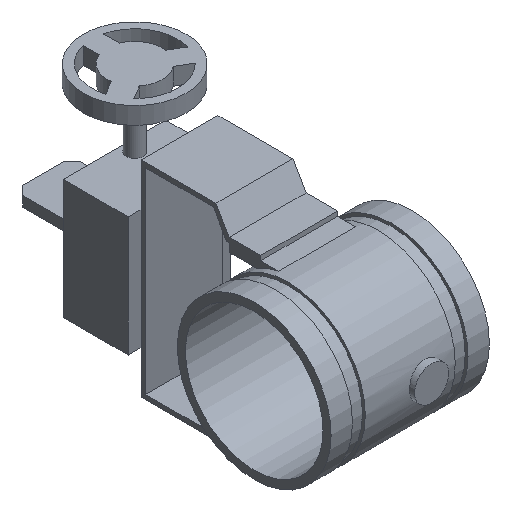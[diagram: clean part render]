
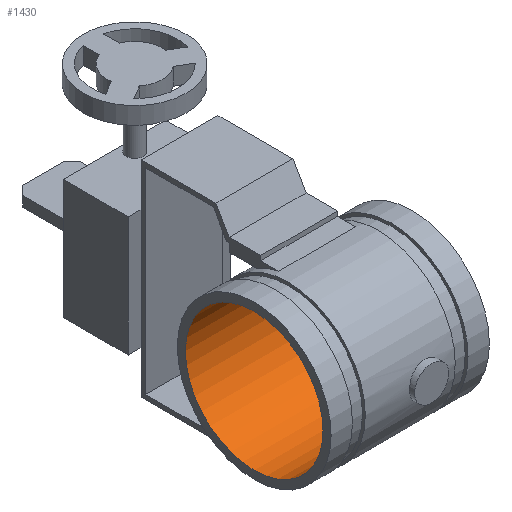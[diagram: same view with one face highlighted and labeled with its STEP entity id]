
A CAD part, isometric view. The second image highlights one B-rep face of the part: STEP entity #1430.
In plain terms, the highlighted cylindrical face has radius 51.13 mm (diameter 102.26 mm), a full revolution.
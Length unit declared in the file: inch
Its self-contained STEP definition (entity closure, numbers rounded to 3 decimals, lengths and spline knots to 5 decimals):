
#71=CYLINDRICAL_SURFACE('',#1531,2.013);
#94=CIRCLE('',#1532,2.013);
#95=CIRCLE('',#1533,2.013);
#96=CIRCLE('',#1534,2.013);
#97=CIRCLE('',#1535,2.013);
#145=FACE_OUTER_BOUND('',#219,.T.);
#219=EDGE_LOOP('',(#971,#972,#973,#974,#975,#976));
#322=LINE('',#2215,#463);
#463=VECTOR('',#1722,2.013);
#609=VERTEX_POINT('',#2211);
#610=VERTEX_POINT('',#2212);
#611=VERTEX_POINT('',#2214);
#612=VERTEX_POINT('',#2216);
#752=EDGE_CURVE('',#609,#610,#94,.T.);
#753=EDGE_CURVE('',#610,#611,#322,.T.);
#754=EDGE_CURVE('',#612,#611,#95,.T.);
#755=EDGE_CURVE('',#611,#612,#96,.T.);
#756=EDGE_CURVE('',#610,#609,#97,.T.);
#971=ORIENTED_EDGE('',*,*,#752,.T.);
#972=ORIENTED_EDGE('',*,*,#753,.T.);
#973=ORIENTED_EDGE('',*,*,#754,.F.);
#974=ORIENTED_EDGE('',*,*,#755,.F.);
#975=ORIENTED_EDGE('',*,*,#753,.F.);
#976=ORIENTED_EDGE('',*,*,#756,.T.);
#1430=ADVANCED_FACE('',(#145),#71,.F.);
#1531=AXIS2_PLACEMENT_3D('',#2210,#1718,#1719);
#1532=AXIS2_PLACEMENT_3D('',#2213,#1720,#1721);
#1533=AXIS2_PLACEMENT_3D('',#2217,#1723,#1724);
#1534=AXIS2_PLACEMENT_3D('',#2218,#1725,#1726);
#1535=AXIS2_PLACEMENT_3D('',#2219,#1727,#1728);
#1718=DIRECTION('center_axis',(1.,0.,0.));
#1719=DIRECTION('ref_axis',(0.,1.,0.));
#1720=DIRECTION('center_axis',(1.,0.,0.));
#1721=DIRECTION('ref_axis',(0.,0.,-1.));
#1722=DIRECTION('',(-1.,0.,0.));
#1723=DIRECTION('center_axis',(1.,0.,0.));
#1724=DIRECTION('ref_axis',(0.,0.,-1.));
#1725=DIRECTION('center_axis',(1.,0.,0.));
#1726=DIRECTION('ref_axis',(0.,0.,-1.));
#1727=DIRECTION('center_axis',(1.,0.,0.));
#1728=DIRECTION('ref_axis',(0.,0.,-1.));
#2210=CARTESIAN_POINT('Origin',(0.,0.,
0.));
#2211=CARTESIAN_POINT('',(2.315,2.013,0.));
#2212=CARTESIAN_POINT('',(2.315,-2.013,0.));
#2213=CARTESIAN_POINT('Origin',(2.315,0.,0.));
#2214=CARTESIAN_POINT('',(-2.315,-2.013,0.));
#2215=CARTESIAN_POINT('',(0.,-2.013,0.));
#2216=CARTESIAN_POINT('',(-2.315,2.013,0.));
#2217=CARTESIAN_POINT('Origin',(-2.315,0.,0.));
#2218=CARTESIAN_POINT('Origin',(-2.315,0.,0.));
#2219=CARTESIAN_POINT('Origin',(2.315,0.,0.));
